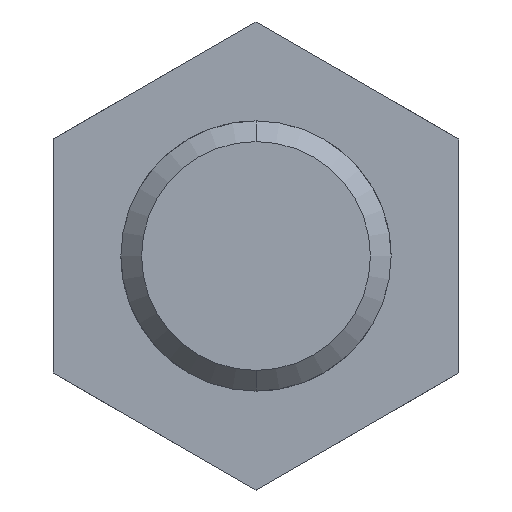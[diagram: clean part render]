
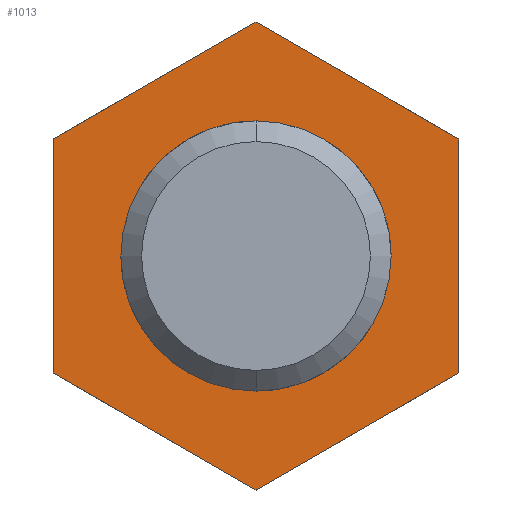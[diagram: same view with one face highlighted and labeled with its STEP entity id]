
A CAD part, front view. The second image highlights one B-rep face of the part: STEP entity #1013.
In plain terms, the highlighted planar face has unit normal (0, -1, 0).
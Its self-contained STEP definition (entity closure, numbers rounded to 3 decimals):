
#831=CARTESIAN_POINT('Vertex',(18.,0.,10.392)) ;
#838=CARTESIAN_POINT('Vertex',(0.,0.,20.785)) ;
#841=CARTESIAN_POINT('Line Origine',(9.,0.,15.588)) ;
#862=CARTESIAN_POINT('Vertex',(18.,0.,-10.392)) ;
#865=CARTESIAN_POINT('Line Origine',(18.,0.,0.)) ;
#886=CARTESIAN_POINT('Vertex',(0.,0.,-20.785)) ;
#889=CARTESIAN_POINT('Line Origine',(9.,0.,-15.588)) ;
#910=CARTESIAN_POINT('Vertex',(-18.,0.,-10.392)) ;
#913=CARTESIAN_POINT('Line Origine',(-9.,0.,-15.588)) ;
#934=CARTESIAN_POINT('Vertex',(-18.,0.,10.392)) ;
#937=CARTESIAN_POINT('Line Origine',(-18.,0.,0.)) ;
#954=CARTESIAN_POINT('Line Origine',(-9.,0.,15.588)) ;
#966=CARTESIAN_POINT('Axis2P3D Location',(0.,0.,0.)) ;
#979=CARTESIAN_POINT('Axis2P3D Location',(0.,0.,0.)) ;
#983=CARTESIAN_POINT('Vertex',(0.,0.,-11.5)) ;
#985=CARTESIAN_POINT('Vertex',(11.5,0.,0.)) ;
#988=CARTESIAN_POINT('Axis2P3D Location',(0.,0.,0.)) ;
#992=CARTESIAN_POINT('Vertex',(-11.5,0.,0.)) ;
#995=CARTESIAN_POINT('Axis2P3D Location',(0.,0.,0.)) ;
#999=CARTESIAN_POINT('Vertex',(0.,0.,11.5)) ;
#1002=CARTESIAN_POINT('Axis2P3D Location',(0.,0.,0.)) ;
#842=DIRECTION('Vector Direction',(0.866,0.,-0.5)) ;
#866=DIRECTION('Vector Direction',(0.,0.,-1.)) ;
#890=DIRECTION('Vector Direction',(-0.866,0.,-0.5)) ;
#914=DIRECTION('Vector Direction',(-0.866,0.,0.5)) ;
#938=DIRECTION('Vector Direction',(0.,0.,1.)) ;
#955=DIRECTION('Vector Direction',(0.866,0.,0.5)) ;
#967=DIRECTION('Axis2P3D Direction',(0.,1.,0.)) ;
#968=DIRECTION('Axis2P3D XDirection',(0.,-0.,1.)) ;
#980=DIRECTION('Axis2P3D Direction',(0.,1.,0.)) ;
#989=DIRECTION('Axis2P3D Direction',(0.,1.,0.)) ;
#996=DIRECTION('Axis2P3D Direction',(0.,1.,0.)) ;
#1003=DIRECTION('Axis2P3D Direction',(0.,1.,0.)) ;
#969=AXIS2_PLACEMENT_3D('Plane Axis2P3D',#966,#967,#968) ;
#981=AXIS2_PLACEMENT_3D('Circle Axis2P3D',#979,#980,$) ;
#990=AXIS2_PLACEMENT_3D('Circle Axis2P3D',#988,#989,$) ;
#997=AXIS2_PLACEMENT_3D('Circle Axis2P3D',#995,#996,$) ;
#1004=AXIS2_PLACEMENT_3D('Circle Axis2P3D',#1002,#1003,$) ;
#972=ORIENTED_EDGE('',*,*,#941,.F.) ;
#973=ORIENTED_EDGE('',*,*,#917,.F.) ;
#974=ORIENTED_EDGE('',*,*,#893,.F.) ;
#975=ORIENTED_EDGE('',*,*,#869,.F.) ;
#976=ORIENTED_EDGE('',*,*,#845,.F.) ;
#977=ORIENTED_EDGE('',*,*,#958,.F.) ;
#1008=ORIENTED_EDGE('',*,*,#987,.F.) ;
#1009=ORIENTED_EDGE('',*,*,#994,.F.) ;
#1010=ORIENTED_EDGE('',*,*,#1001,.F.) ;
#1011=ORIENTED_EDGE('',*,*,#1006,.F.) ;
#1012=FACE_BOUND('',#1007,.T.) ;
#843=VECTOR('Line Direction',#842,1.) ;
#867=VECTOR('Line Direction',#866,1.) ;
#891=VECTOR('Line Direction',#890,1.) ;
#915=VECTOR('Line Direction',#914,1.) ;
#939=VECTOR('Line Direction',#938,1.) ;
#956=VECTOR('Line Direction',#955,1.) ;
#1013=ADVANCED_FACE('395P-02-025-024',(#978,#1012),#970,.F.) ;
#982=CIRCLE('generated circle',#981,11.5) ;
#991=CIRCLE('generated circle',#990,11.5) ;
#998=CIRCLE('generated circle',#997,11.5) ;
#1005=CIRCLE('generated circle',#1004,11.5) ;
#845=EDGE_CURVE('',#839,#832,#844,.T.) ;
#869=EDGE_CURVE('',#832,#863,#868,.T.) ;
#893=EDGE_CURVE('',#863,#887,#892,.T.) ;
#917=EDGE_CURVE('',#887,#911,#916,.T.) ;
#941=EDGE_CURVE('',#911,#935,#940,.T.) ;
#958=EDGE_CURVE('',#935,#839,#957,.T.) ;
#987=EDGE_CURVE('',#984,#986,#982,.F.) ;
#994=EDGE_CURVE('',#993,#984,#991,.F.) ;
#1001=EDGE_CURVE('',#1000,#993,#998,.F.) ;
#1006=EDGE_CURVE('',#986,#1000,#1005,.F.) ;
#971=EDGE_LOOP('',(#972,#973,#974,#975,#976,#977)) ;
#1007=EDGE_LOOP('',(#1008,#1009,#1010,#1011)) ;
#978=FACE_OUTER_BOUND('',#971,.T.) ;
#844=LINE('Line',#841,#843) ;
#868=LINE('Line',#865,#867) ;
#892=LINE('Line',#889,#891) ;
#916=LINE('Line',#913,#915) ;
#940=LINE('Line',#937,#939) ;
#957=LINE('Line',#954,#956) ;
#970=PLANE('Plane',#969) ;
#832=VERTEX_POINT('',#831) ;
#839=VERTEX_POINT('',#838) ;
#863=VERTEX_POINT('',#862) ;
#887=VERTEX_POINT('',#886) ;
#911=VERTEX_POINT('',#910) ;
#935=VERTEX_POINT('',#934) ;
#984=VERTEX_POINT('',#983) ;
#986=VERTEX_POINT('',#985) ;
#993=VERTEX_POINT('',#992) ;
#1000=VERTEX_POINT('',#999) ;
